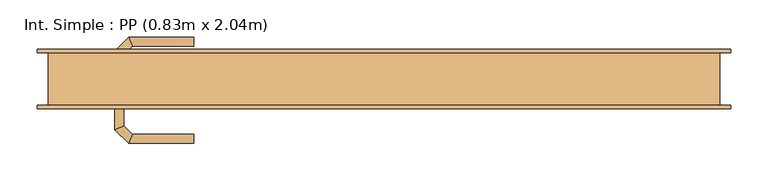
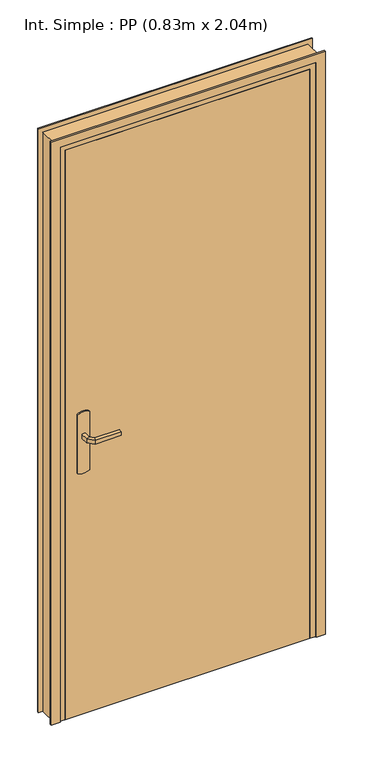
"""IFC4 building model written with IfcOpenShell, lengths in millimetres: door geometry, Int. Simple : PP (0.83m x 2.04m)."""

from ifc_helpers import new_model, si_unit, point, frame, frame_2d, origin, origin_with_axes, place, context, project, spatial, polyline, circle_curve, ellipse_curve, trimmed, segment, composite_curve, outline, extrude, faceted_brep, source, transform, mapped, element, save
from ifc_brep_helpers import plane_surface, cylinder_surface, advanced_brep


def int_simple_pp_0_83m_x_2_04m_8f139ac8(model_context):
    return source(origin(), model_context, "Body", "SolidModel", [
        extrude(outline(composite_curve([segment(trimmed(circle_curve(frame_2d((904.6410162, -390.0)), 40.0), [point((870.0, -410.0))], [point((870.0, -370.0))], False, "CARTESIAN"), True, "CONTINUOUS"), segment(polyline([(870.0, -370.0), (1080.0, -370.0)]), True, "CONTINUOUS"), segment(trimmed(circle_curve(frame_2d((1045.3589838, -390.0)), 40.0), [point((1080.0, -370.0))], [point((1080.0, -410.0))], False, "CARTESIAN"), True, "CONTINUOUS"), segment(polyline([(1080.0, -410.0), (870.0, -410.0)]), True, "CONTINUOUS")], self_intersect=False)), frame((0.0, -40.0, 0.0), z_axis=(0.0, 1.0, 0.0), x_axis=(0.0, 0.0, 1.0)), (0.0, 0.0, 1.0), 5.0),
        extrude(outline(composite_curve([segment(trimmed(circle_curve(frame_2d((1045.3589838, -390.0)), 40.0), [point((1080.0, -370.0))], [point((1080.0, -410.0))], False, "CARTESIAN"), True, "CONTINUOUS"), segment(polyline([(1080.0, -410.0), (870.0, -410.0)]), True, "CONTINUOUS"), segment(trimmed(circle_curve(frame_2d((904.6410162, -390.0)), 40.0), [point((870.0, -410.0))], [point((870.0, -370.0))], False, "CARTESIAN"), True, "CONTINUOUS"), segment(polyline([(870.0, -370.0), (1080.0, -370.0)]), True, "CONTINUOUS")], self_intersect=False)), frame((0.0, 5.0, 0.0), z_axis=(0.0, 1.0, 0.0), x_axis=(0.0, 0.0, 1.0)), (0.0, 0.0, 1.0), 5.0),
        advanced_brep(
        [(-396.0, -40.0, 1007.0), (-384.0, -40.0, 1007.0), (-384.0, -40.0, 993.0), (-396.0, -40.0, 993.0), (-396.0, -67.6509507, 1007.0), (-384.0, -62.680388, 1007.0), (-384.0, -62.680388, 993.0), (-396.0, -67.6509507, 993.0), (-377.62279, -86.0281607, 1007.0), (-372.6522273, -74.0281607, 1007.0), (-372.6522273, -74.0281607, 993.0), (-377.62279, -86.0281607, 993.0), (-289.9813594, -86.0281607, 1007.0), (-289.9813594, -86.0281607, 993.0), (-289.9813594, -74.0281607, 993.0), (-289.9813594, -74.0281607, 1007.0)],
        [
            (0, 1, circle_curve(frame((-390.0, -40.0, 986.9542278), z_axis=(0.0, 1.0, 0.0), x_axis=(1.0, 0.0, 0.0)), 20.9244589)),
            (1, 2),
            (2, 3, circle_curve(frame((-390.0, -40.0, 1013.0457722), z_axis=(0.0, 1.0, 0.0), x_axis=(1.0, 0.0, 0.0)), 20.9244589)),
            (3, 0),
            (0, 4),
            (4, 5, ellipse_curve(frame((-390.0, -65.1656693, 986.9542278), z_axis=(-0.3826834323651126, 0.9238795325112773, 0.0), x_axis=(0.9238795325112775, 0.38268343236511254, 0.0)), 22.6484711, 20.9244589)),
            (5, 1),
            (5, 6),
            (6, 2),
            (6, 7, ellipse_curve(frame((-390.0, -65.1656693, 1013.0457722), z_axis=(-0.3826834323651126, 0.9238795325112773, 0.0), x_axis=(0.9238795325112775, 0.38268343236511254, 0.0)), 22.6484711, 20.9244589)),
            (7, 3),
            (7, 4),
            (4, 8),
            (8, 9, ellipse_curve(frame((-375.1375086, -80.0281607, 986.9542278), z_axis=(-0.9238795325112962, 0.38268343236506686, 0.0), x_axis=(0.3826834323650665, 0.9238795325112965, 0.0)), 22.6484711, 20.9244589)),
            (9, 5),
            (9, 10),
            (10, 6),
            (10, 11, ellipse_curve(frame((-375.1375086, -80.0281607, 1013.0457722), z_axis=(-0.9238795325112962, 0.38268343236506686, 0.0), x_axis=(0.3826834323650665, 0.9238795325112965, 0.0)), 22.6484711, 20.9244589)),
            (11, 7),
            (11, 8),
            (12, 13),
            (13, 14, circle_curve(frame((-289.9813594, -80.0281607, 1013.0457722), z_axis=(1.0, 0.0, 0.0), x_axis=(0.0, 1.0, 0.0)), 20.9244589)),
            (14, 15),
            (15, 12, circle_curve(frame((-289.9813594, -80.0281607, 986.9542278), z_axis=(1.0, 0.0, 0.0), x_axis=(0.0, 1.0, 0.0)), 20.9244589)),
            (8, 12),
            (15, 9),
            (14, 10),
            (13, 11),
        ],
        [
            plane_surface(frame((-399.2195445, -40.0, 1000.0), z_axis=(0.0, 1.0, 0.0), x_axis=(0.0, 0.0, -1.0))),
            cylinder_surface(frame((-390.0, -40.0, 986.9542278), z_axis=(0.0, 1.0, 0.0), x_axis=(1.0, 0.0, 0.0)), 20.9244589),
            plane_surface(frame((-384.0, -40.0, 1007.0), z_axis=(1.0, 0.0, 0.0), x_axis=(0.0, -1.0, 0.0))),
            cylinder_surface(frame((-390.0, -40.0, 1013.0457722), z_axis=(0.0, 1.0, 0.0), x_axis=(1.0, 0.0, 0.0)), 20.9244589),
            plane_surface(frame((-396.0, -40.0, 993.0), z_axis=(-1.0, 0.0, 0.0), x_axis=(0.0, -1.0, 0.0))),
            cylinder_surface(frame((-390.0, -65.1656693, 986.9542278), z_axis=(-0.7071067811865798, 0.7071067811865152, 0.0), x_axis=(0.7071067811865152, 0.7071067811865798, 0.0)), 20.9244589),
            plane_surface(frame((-384.0, -62.680388, 1007.0), z_axis=(0.7071067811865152, 0.7071067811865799, 0.0), x_axis=(0.7071067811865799, -0.7071067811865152, 0.0))),
            cylinder_surface(frame((-390.0, -65.1656693, 1013.0457722), z_axis=(-0.7071067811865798, 0.7071067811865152, 0.0), x_axis=(0.7071067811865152, 0.7071067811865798, 0.0)), 20.9244589),
            plane_surface(frame((-396.0, -67.6509507, 993.0), z_axis=(-0.7071067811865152, -0.7071067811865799, 0.0), x_axis=(0.7071067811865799, -0.7071067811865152, 0.0))),
            plane_surface(frame((-289.9813594, -80.0281607, 990.7804555), z_axis=(1.0, 0.0, 0.0), x_axis=(0.0, 1.0, 0.0))),
            cylinder_surface(frame((-375.1375086, -80.0281607, 986.9542278), z_axis=(-1.0, 0.0, 0.0), x_axis=(0.0, 1.0, 0.0)), 20.9244589),
            plane_surface(frame((-372.6522273, -74.0281607, 1007.0), z_axis=(0.0, 1.0, 0.0), x_axis=(1.0, 0.0, 0.0))),
            cylinder_surface(frame((-375.1375086, -80.0281607, 1013.0457722), z_axis=(-1.0, 0.0, 0.0), x_axis=(0.0, 1.0, 0.0)), 20.9244589),
            plane_surface(frame((-377.62279, -86.0281607, 993.0), z_axis=(0.0, -1.0, 0.0), x_axis=(1.0, 0.0, 0.0))),
        ],
        [
            (0, [[1, 2, 3, 4]]),
            (1, [[-1, 5, 6, 7]]),
            (2, [[-2, -7, 8, 9]]),
            (3, [[-3, -9, 10, 11]]),
            (4, [[-4, -11, 12, -5]]),
            (5, [[-6, 13, 14, 15]]),
            (6, [[-8, -15, 16, 17]]),
            (7, [[-10, -17, 18, 19]]),
            (8, [[-12, -19, 20, -13]]),
            (9, [[21, 22, 23, 24]]),
            (10, [[-14, 25, -24, 26]]),
            (11, [[-16, -26, -23, 27]]),
            (12, [[-18, -27, -22, 28]]),
            (13, [[-20, -28, -21, -25]]),
        ],
    ),
        advanced_brep(
        [(-384.0, 10.0, 993.0), (-384.0, 10.0, 1007.0), (-396.0, 10.0, 1007.0), (-396.0, 10.0, 993.0), (-384.0, 32.4852045, 993.0), (-384.0, 32.4852045, 1007.0), (-396.0, 37.4557673, 1007.0), (-396.0, 37.4557673, 993.0), (-372.5147186, 43.9704859, 993.0), (-372.5147186, 43.9704859, 1007.0), (-377.4852814, 55.9704859, 1007.0), (-377.4852814, 55.9704859, 993.0), (-289.9542163, 43.9704859, 993.0), (-289.9542163, 55.9704859, 993.0), (-289.9542163, 55.9704859, 1007.0), (-289.9542163, 43.9704859, 1007.0)],
        [
            (0, 1),
            (1, 2, circle_curve(frame((-390.0, 10.0, 986.9542278), z_axis=(0.0, -1.0, 0.0), x_axis=(-1.0, 0.0, 0.0)), 20.9244589)),
            (2, 3),
            (3, 0, circle_curve(frame((-390.0, 10.0, 1013.0457722), z_axis=(0.0, -1.0, 0.0), x_axis=(-1.0, 0.0, 0.0)), 20.9244589)),
            (0, 4),
            (4, 5),
            (5, 1),
            (5, 6, ellipse_curve(frame((-390.0, 34.9704859, 986.9542278), z_axis=(-0.3826834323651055, -0.9238795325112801, 0.0), x_axis=(0.9238795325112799, -0.3826834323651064, 0.0)), 22.6484711, 20.9244589)),
            (6, 2),
            (6, 7),
            (7, 3),
            (7, 4, ellipse_curve(frame((-390.0, 34.9704859, 1013.0457722), z_axis=(-0.3826834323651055, -0.9238795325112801, 0.0), x_axis=(0.9238795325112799, -0.3826834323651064, 0.0)), 22.6484711, 20.9244589)),
            (4, 8),
            (8, 9),
            (9, 5),
            (9, 10, ellipse_curve(frame((-375.0, 49.9704859, 986.9542278), z_axis=(-0.9238795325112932, -0.382683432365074, 0.0), x_axis=(0.3826834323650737, -0.9238795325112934, 0.0)), 22.6484711, 20.9244589)),
            (10, 6),
            (10, 11),
            (11, 7),
            (11, 8, ellipse_curve(frame((-375.0, 49.9704859, 1013.0457722), z_axis=(-0.9238795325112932, -0.382683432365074, 0.0), x_axis=(0.3826834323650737, -0.9238795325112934, 0.0)), 22.6484711, 20.9244589)),
            (12, 13, circle_curve(frame((-289.9542163, 49.9704859, 1013.0457722), z_axis=(1.0, 0.0, 0.0), x_axis=(0.0, 1.0, 0.0)), 20.9244589)),
            (13, 14),
            (14, 15, circle_curve(frame((-289.9542163, 49.9704859, 986.9542278), z_axis=(1.0, 0.0, 0.0), x_axis=(0.0, 1.0, 0.0)), 20.9244589)),
            (15, 12),
            (8, 12),
            (15, 9),
            (14, 10),
            (13, 11),
        ],
        [
            plane_surface(frame((-399.2195445, 10.0, 1000.0), z_axis=(0.0, -1.0, 0.0), x_axis=(0.0, 0.0, 1.0))),
            plane_surface(frame((-384.0, 10.0, 993.0), z_axis=(1.0, 0.0, 0.0), x_axis=(0.0, 1.0, 0.0))),
            cylinder_surface(frame((-390.0, 10.0, 986.9542278), z_axis=(0.0, -1.0, 0.0), x_axis=(-1.0, 0.0, 0.0)), 20.9244589),
            plane_surface(frame((-396.0, 10.0, 1007.0), z_axis=(-1.0, 0.0, 0.0), x_axis=(0.0, 1.0, 0.0))),
            cylinder_surface(frame((-390.0, 10.0, 1013.0457722), z_axis=(0.0, -1.0, 0.0), x_axis=(-1.0, 0.0, 0.0)), 20.9244589),
            plane_surface(frame((-384.0, 32.4852045, 993.0), z_axis=(0.7071067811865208, -0.7071067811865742, 0.0), x_axis=(0.7071067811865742, 0.7071067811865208, 0.0))),
            cylinder_surface(frame((-390.0, 34.9704859, 986.9542278), z_axis=(-0.7071067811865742, -0.7071067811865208, 0.0), x_axis=(-0.7071067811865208, 0.7071067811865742, 0.0)), 20.9244589),
            plane_surface(frame((-396.0, 37.4557673, 1007.0), z_axis=(-0.7071067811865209, 0.7071067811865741, 0.0), x_axis=(0.7071067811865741, 0.7071067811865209, 0.0))),
            cylinder_surface(frame((-390.0, 34.9704859, 1013.0457722), z_axis=(-0.7071067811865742, -0.7071067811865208, 0.0), x_axis=(-0.7071067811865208, 0.7071067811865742, 0.0)), 20.9244589),
            plane_surface(frame((-289.9542163, 49.9704859, 990.7804555), z_axis=(1.0, 0.0, 0.0), x_axis=(0.0, 1.0, 0.0))),
            plane_surface(frame((-372.5147186, 43.9704859, 993.0), z_axis=(0.0, -1.0, 0.0), x_axis=(1.0, 0.0, 0.0))),
            cylinder_surface(frame((-375.0, 49.9704859, 986.9542278), z_axis=(-1.0, 0.0, 0.0), x_axis=(0.0, 1.0, 0.0)), 20.9244589),
            plane_surface(frame((-377.4852814, 55.9704859, 1007.0), z_axis=(0.0, 1.0, 0.0), x_axis=(1.0, 0.0, 0.0))),
            cylinder_surface(frame((-375.0, 49.9704859, 1013.0457722), z_axis=(-1.0, 0.0, 0.0), x_axis=(0.0, 1.0, 0.0)), 20.9244589),
        ],
        [
            (0, [[1, 2, 3, 4]]),
            (1, [[-1, 5, 6, 7]]),
            (2, [[-2, -7, 8, 9]]),
            (3, [[-3, -9, 10, 11]]),
            (4, [[-4, -11, 12, -5]]),
            (5, [[-6, 13, 14, 15]]),
            (6, [[-8, -15, 16, 17]]),
            (7, [[-10, -17, 18, 19]]),
            (8, [[-12, -19, 20, -13]]),
            (9, [[21, 22, 23, 24]]),
            (10, [[-14, 25, -24, 26]]),
            (11, [[-16, -26, -23, 27]]),
            (12, [[-18, -27, -22, 28]]),
            (13, [[-20, -28, -21, -25]]),
        ],
    ),
        extrude(outline(polyline([(-450.0, 5.0), (380.0, 5.0), (380.0, -35.0), (-450.0, -35.0), (-450.0, 5.0)])), origin_with_axes(), (0.0, 0.0, 1.0), 2040.0),
        faceted_brep([(-485.0, -35.0, 0.0), (-485.0, 35.0, 0.0), (-435.0, 35.0, 0.0), (-435.0, 5.0, 0.0), (-450.0, 5.0, 0.0), (-450.0, -35.0, 0.0), (-485.0, -35.0, 2075.0), (-485.0, 35.0, 2075.0), (415.0, 35.0, 2075.0), (415.0, 35.0, 0.0), (365.0, 35.0, 0.0), (365.0, 35.0, 2025.0), (-435.0, 35.0, 2025.0), (-435.0, 5.0, 2025.0), (365.0, 5.0, 2025.0), (365.0, 5.0, 0.0), (380.0, 5.0, 0.0), (380.0, 5.0, 2040.0), (-450.0, 5.0, 2040.0), (-450.0, -35.0, 2040.0), (380.0, -35.0, 2040.0), (380.0, -35.0, 0.0), (415.0, -35.0, 0.0), (415.0, -35.0, 2075.0)], [[[0, 1, 2, 3, 4, 5]], [[1, 0, 6, 7]], [[2, 1, 7, 8, 9, 10, 11, 12]], [[3, 2, 12, 13]], [[4, 3, 13, 14, 15, 16, 17, 18]], [[5, 4, 18, 19]], [[0, 5, 19, 20, 21, 22, 23, 6]], [[8, 23, 22, 9]], [[22, 21, 16, 15, 10, 9]], [[14, 11, 10, 15]], [[20, 17, 16, 21]], [[7, 6, 23, 8]], [[13, 12, 11, 14]], [[19, 18, 17, 20]]]),
        extrude(outline(polyline([(0.0, -500.0), (0.0, -470.0), (2060.0, -470.0), (2060.0, 400.0), (0.0, 400.0), (0.0, 430.0), (2090.0, 430.0), (2090.0, -500.0), (0.0, -500.0)])), frame((0.0, -40.0, 0.0), z_axis=(0.0, 1.0, 0.0), x_axis=(0.0, 0.0, 1.0)), (0.0, 0.0, 1.0), 5.0),
        extrude(outline(polyline([(0.0, -500.0), (0.0, -470.0), (2060.0, -470.0), (2060.0, 400.0), (0.0, 400.0), (0.0, 430.0), (2090.0, 430.0), (2090.0, -500.0), (0.0, -500.0)])), frame((0.0, 35.0, 0.0), z_axis=(0.0, 1.0, 0.0), x_axis=(0.0, 0.0, 1.0)), (0.0, 0.0, 1.0), 5.0),
    ])


if __name__ == "__main__":
    model = new_model("IFC4")
    model_context = context("Model", 3, world=origin())
    ifc_project = project(units=[si_unit("LENGTHUNIT", "METRE", prefix="MILLI")], contexts=[model_context])
    site = spatial("IfcSite", under=ifc_project)
    building = spatial("IfcBuilding", under=site)
    placement = place(None, origin())
    int_simple_pp_0_83m_x_2_04m_shape = int_simple_pp_0_83m_x_2_04m_8f139ac8(model_context)
    element("IfcDoor", 1, ObjectType="Int. Simple : PP (0.83m x 2.04m)", at=placement, inside=building, context=model_context, shape_type="MappedRepresentation", body=[
        mapped(int_simple_pp_0_83m_x_2_04m_shape, transform((0.0, 0.0, 0.0), x_axis=(1.0, 0.0, 0.0), y_axis=(0.0, 1.0, 0.0), z_axis=(0.0, 0.0, 1.0))),
    ])
    save(model, "model.ifc")
